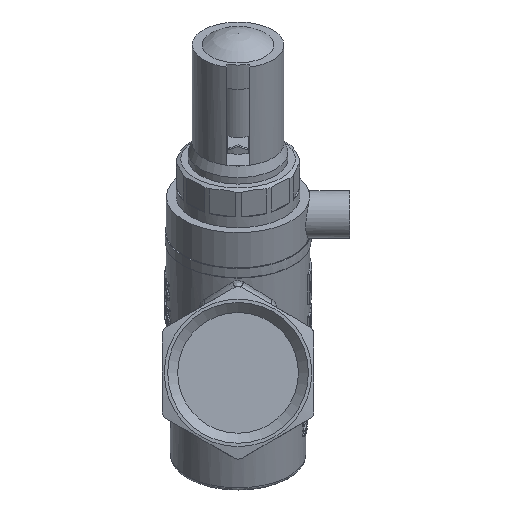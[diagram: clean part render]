
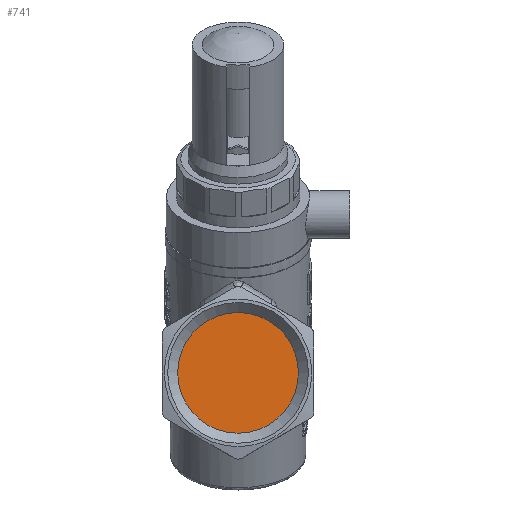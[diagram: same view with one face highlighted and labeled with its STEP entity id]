
A CAD part, front view. The second image highlights one B-rep face of the part: STEP entity #741.
In plain terms, the highlighted planar face has unit normal (0, -1, 0).
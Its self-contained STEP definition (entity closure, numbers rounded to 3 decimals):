
#741=ADVANCED_FACE('',(#9124),#9126,.T.);
#9124=FACE_BOUND('',#9125,.T.);
#9125=EDGE_LOOP('',(#14325));
#9126=PLANE('',#9127);
#9127=AXIS2_PLACEMENT_3D('',#9128,#9129,#9130);
#9128=CARTESIAN_POINT('',(0.,-30.,0.));
#9129=DIRECTION('',(0.,-1.,0.));
#9130=DIRECTION('',(1.,0.,0.));
#14325=ORIENTED_EDGE('',*,*,#16424,.T.);
#16424=EDGE_CURVE('',#19719,#19719,#19720,.T.);
#19719=VERTEX_POINT('',#39641);
#19720=CIRCLE('',#39642,15.146);
#39641=CARTESIAN_POINT('',(15.146,-30.,0.));
#39642=AXIS2_PLACEMENT_3D('',#39643,#39644,#39645);
#39643=CARTESIAN_POINT('',(0.,-30.,0.));
#39644=DIRECTION('',(0.,-1.,0.));
#39645=DIRECTION('',(1.,0.,0.));
